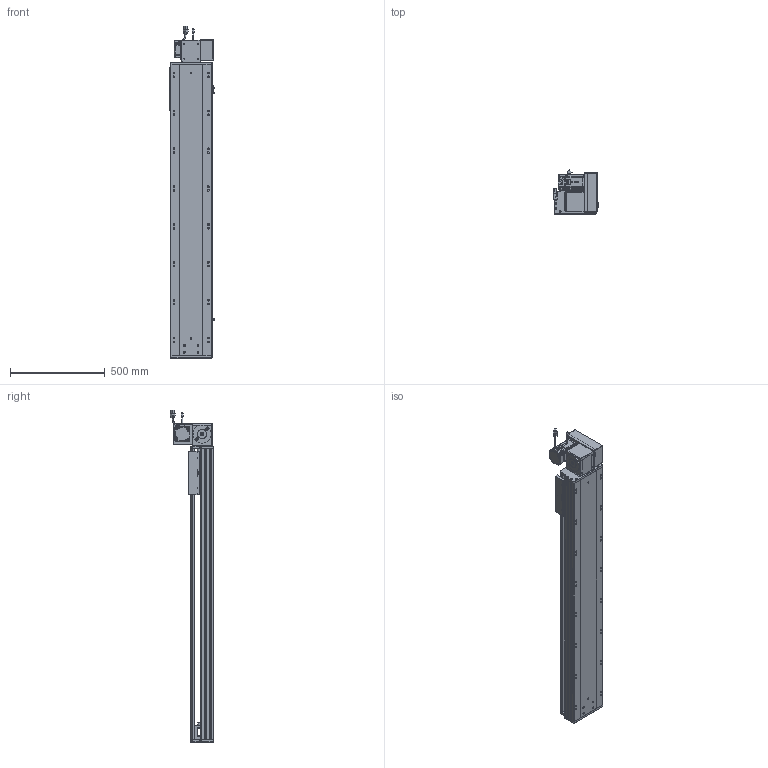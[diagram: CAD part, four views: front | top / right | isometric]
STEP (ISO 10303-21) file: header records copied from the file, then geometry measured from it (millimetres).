
FILE_DESCRIPTION (( 'STEP AP203' ), '1' );
FILE_NAME ('RY220-T-300-UR.SLDASM_1200.step', '2022-07-25T08:43:36', ( '' ), ( '' ), 'SwSTEP 2.0', 'SolidWorks 2016', '' );
FILE_SCHEMA (( 'CONFIG_CONTROL_DESIGN' ));
Length unit declared in the file: millimetre
Products named in the file (14): RY220-T-蛌殏萇儂假蚾啣(750W); RY220圉猾敕々湍臏賑輸; 覜茼ん672; RY220翋肮祭謫裔啣; RY220翋肮祭謫釱; RY220-T-湍謫欶(鍼踢); RY220-T-300-奻裔啣_1200; 滅袉蝶18-15; 怢湛750W_ECMA-CX0807ES; RY220-T菁釱-300_1200; RY220-T-300-UR.SLDASM_1200; 110A-T-肮祭謫釱傷裔; RY220-同步轮副支撑座6304×2; RY220-俋离672覜茼んえ
Assembly tree (18 placements, depth 2):
  RY220-T-300-UR.SLDASM_1200
    RY220-T菁釱-300_1200
    RY220翋肮祭謫釱
    覜茼ん672  x3
    RY220圉猾敕々湍臏賑輸
    RY220-T-300-奻裔啣_1200
    RY220-俋离672覜茼んえ
    滅袉蝶18-15  x3
    RY220翋肮祭謫裔啣  x2
    110A-T-肮祭謫釱傷裔
    怢湛750W_ECMA-CX0807ES
    RY220-T-湍謫欶(鍼踢)
    RY220-T-蛌殏萇儂假蚾啣(750W)
    RY220-同步轮副支撑座6304×2
Bounding box: 238.7 x 231.74 x 1753.27 mm (x, y, z)
Volume: 13556584.8 mm3; surface area: 4001762.8 mm2
Topology: 19 solids, 19 shells, 2662 faces, 7343 edges, 4652 vertices
Faces by surface type: cylinder 1250, plane 1069, cone 261, bspline 56, sphere 16, torus 10
Entity records: 88499 total; most frequent: CARTESIAN_POINT 25201, ORIENTED_EDGE 13146, DIRECTION 12448, EDGE_CURVE 6573, AXIS2_PLACEMENT_3D 4408, VERTEX_POINT 4276, VECTOR 3632, LINE 3632
